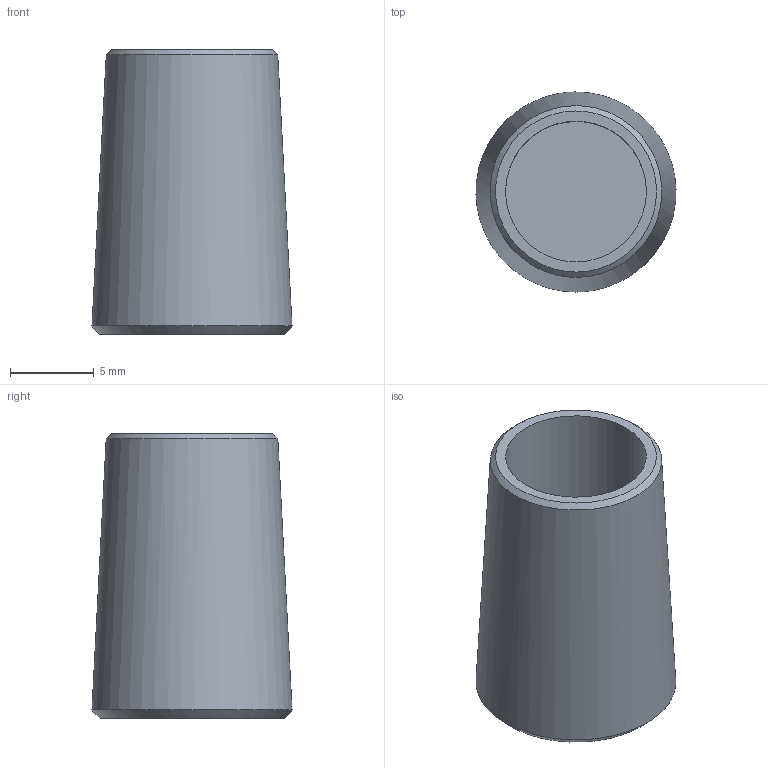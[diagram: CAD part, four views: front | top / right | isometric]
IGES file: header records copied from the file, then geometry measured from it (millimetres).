
Global section: file name: 520-008-KMU; native system: Autodesk Inventor 2016; preprocessor: unknown; author: BAYR; date: 20200618.122107; units: millimetre
Bounding box: 11.95 x 11.95 x 17 mm (x, y, z)
Volume: 925.3 mm3; surface area: 1115.2 mm2
Topology: 1 solids, 1 shells, 7 faces, 14 edges, 10 vertices
Faces by surface type: bspline 7
